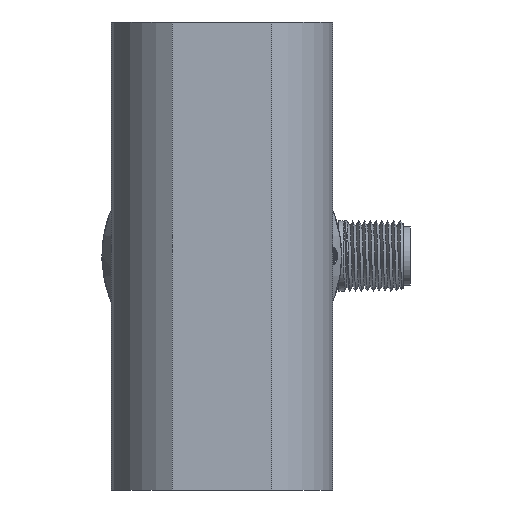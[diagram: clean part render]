
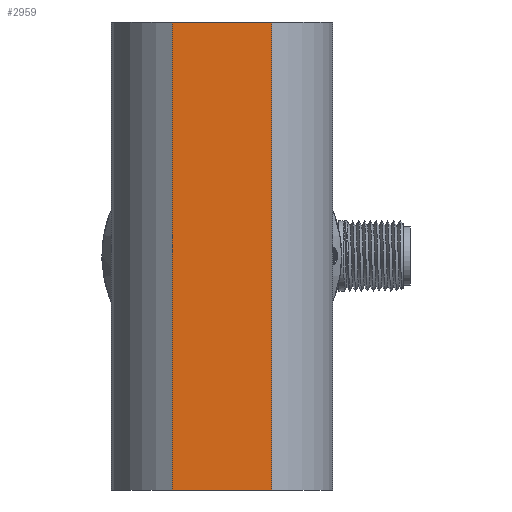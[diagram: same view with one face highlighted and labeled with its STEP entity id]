
A CAD part, front view. The second image highlights one B-rep face of the part: STEP entity #2959.
In plain terms, the highlighted planar face has unit normal (0, -1, 0).
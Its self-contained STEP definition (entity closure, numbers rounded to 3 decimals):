
#1841=FACE_OUTER_BOUND('',#3744,.T.);
#2179=LINE('',#11000,#2559);
#2181=LINE('',#11011,#2561);
#2183=LINE('',#11019,#2563);
#2185=LINE('',#11022,#2565);
#2559=VECTOR('',#9075,1.);
#2561=VECTOR('',#9085,1.);
#2563=VECTOR('',#9093,1.);
#2565=VECTOR('',#9097,1.);
#2959=ADVANCED_FACE('',(#1841),#3380,.F.);
#3380=PLANE('',#8345);
#3744=EDGE_LOOP('',(#4511,#4512,#4513,#4514));
#4511=ORIENTED_EDGE('',*,*,#6982,.F.);
#4512=ORIENTED_EDGE('',*,*,#6986,.F.);
#4513=ORIENTED_EDGE('',*,*,#6977,.T.);
#4514=ORIENTED_EDGE('',*,*,#6988,.F.);
#6350=VERTEX_POINT('',#10998);
#6352=VERTEX_POINT('',#11001);
#6355=VERTEX_POINT('',#11009);
#6357=VERTEX_POINT('',#11012);
#6977=EDGE_CURVE('',#6352,#6350,#2179,.T.);
#6982=EDGE_CURVE('',#6355,#6357,#2181,.T.);
#6986=EDGE_CURVE('',#6352,#6355,#2183,.T.);
#6988=EDGE_CURVE('',#6357,#6350,#2185,.T.);
#8345=AXIS2_PLACEMENT_3D('',#12411,#9167,#9168);
#9075=DIRECTION('',(1.,0.,0.));
#9085=DIRECTION('',(1.,0.,0.));
#9093=DIRECTION('',(0.,0.,1.));
#9097=DIRECTION('',(0.,0.,-1.));
#9167=DIRECTION('',(0.,1.,0.));
#9168=DIRECTION('',(0.,0.,1.));
#10998=CARTESIAN_POINT('',(8.485,-17.,-48.));
#11000=CARTESIAN_POINT('',(0.,-17.,-48.));
#11001=CARTESIAN_POINT('',(-8.485,-17.,-48.));
#11009=CARTESIAN_POINT('',(-8.485,-17.,32.));
#11011=CARTESIAN_POINT('',(0.,-17.,32.));
#11012=CARTESIAN_POINT('',(8.485,-17.,32.));
#11019=CARTESIAN_POINT('',(-8.485,-17.,-48.));
#11022=CARTESIAN_POINT('',(8.485,-17.,48.5));
#12411=CARTESIAN_POINT('',(0.,-17.,-8.));
